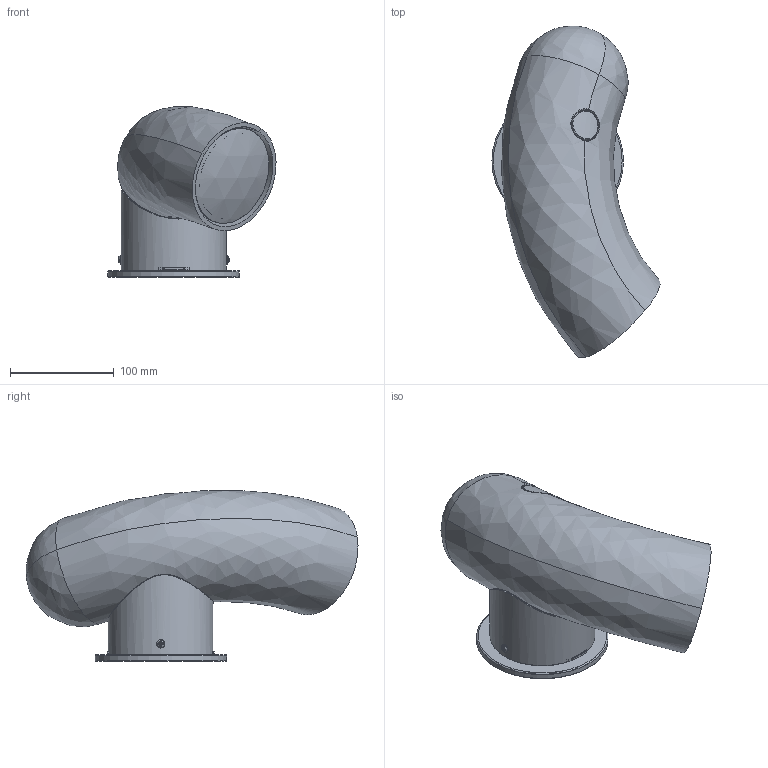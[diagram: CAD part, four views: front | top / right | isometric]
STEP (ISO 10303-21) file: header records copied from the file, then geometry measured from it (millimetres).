
FILE_DESCRIPTION(/* description */ (''),/* implementation_level */ '2;1');
FILE_NAME(/* name */ 'HYWAXX.step',/* time_stamp */ '2023-05-02T11:59:10-04:00',/* author */ (''),/* organization */ (''),/* preprocessor_version */ 'ST-DEVELOPER v19.2',/* originating_system */ 'Autodesk Translation Framework v12.4.0.73',/* authorisation */ '');
FILE_SCHEMA (('AUTOMOTIVE_DESIGN { 1 0 10303 214 3 1 1 }'));
Length unit declared in the file: millimetre
Products named in the file (9): HYWAXX; P-LCB0742STEL; P-ROD0743STEL-P05; P-STM0823STEL-P05; SEE TABLE; H-SCW0828STEL; SEE TABLE_1; SEE TABLE_2; P-CNC0566BRAS
Assembly tree (9 placements, depth 3):
  HYWAXX
    P-LCB0742STEL
    P-ROD0743STEL-P05
    P-STM0823STEL-P05
      SEE TABLE
    H-SCW0828STEL  x2
    SEE TABLE_1
      SEE TABLE_2
    P-CNC0566BRAS
Bounding box: 162.3 x 320.61 x 164.67 mm (x, y, z)
Volume: 521365.9 mm3; surface area: 327206.4 mm2
Topology: 10 solids, 11 shells, 518 faces, 1295 edges, 776 vertices
Faces by surface type: cylinder 156, bspline 123, plane 106, torus 88, cone 29, sphere 16
Full cylindrical faces by diameter (mm): 3.134 x20, 3.416 x1, 4.166 x20, 4.496 x4, 5 x2, 5.105 x2, 5.6 x1, 8.179 x2, 14.287 x1, 22.636 x4, 25.209 x5, 25.4 x1, 26 x1, 28.575 x1, 95.352 x1, 98.298 x1, 101.6 x1, 125.476 x1, 127 x1
Entity records: 21662 total; most frequent: CARTESIAN_POINT 12690, ORIENTED_EDGE 1897, DIRECTION 1750, EDGE_CURVE 949, AXIS2_PLACEMENT_3D 734, VERTEX_POINT 585, EDGE_LOOP 425, CIRCLE 399
